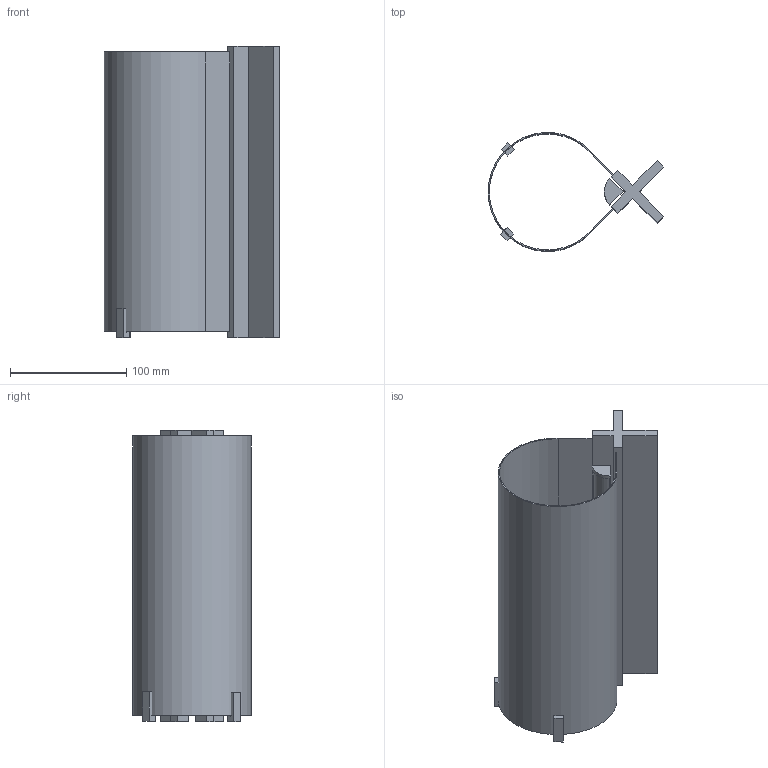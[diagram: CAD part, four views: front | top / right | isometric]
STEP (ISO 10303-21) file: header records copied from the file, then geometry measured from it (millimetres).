
FILE_DESCRIPTION(/* description */ (''),/* implementation_level */ '2;1');
FILE_NAME(/* name */ '20325.step',/* time_stamp */ '2024-10-11T11:01:17+02:00',/* author */ ('RenataManzini'),/* organization */ (''),/* preprocessor_version */ 'ST-DEVELOPER v20',/* originating_system */ 'AutoCAD Mechanical',/* authorisation */ '');
FILE_SCHEMA (('AUTOMOTIVE_DESIGN { 1 0 10303 214 3 1 1 }'));
Length unit declared in the file: millimetre
Products named in the file (2): Product; cata_sobremesa - STUDIO-642805-_3D_
Assembly tree (1 placements, depth 2):
  Product
    cata_sobremesa - STUDIO-642805-_3D_
Bounding box: 151 x 101.87 x 250.68 mm (x, y, z)
Volume: 317403.1 mm3; surface area: 226817.8 mm2
Topology: 6 solids, 6 shells, 69 faces, 170 edges, 115 vertices
Faces by surface type: plane 58, cylinder 11
Entity records: 2066 total; most frequent: CARTESIAN_POINT 358, DIRECTION 337, ORIENTED_EDGE 334, EDGE_CURVE 167, LINE 147, VECTOR 147, VERTEX_POINT 110, AXIS2_PLACEMENT_3D 95
